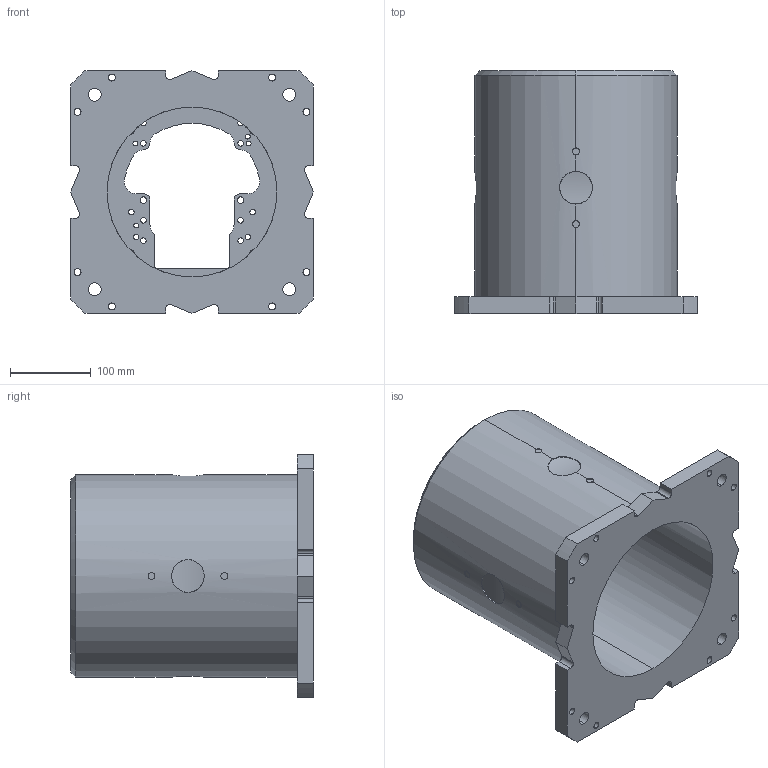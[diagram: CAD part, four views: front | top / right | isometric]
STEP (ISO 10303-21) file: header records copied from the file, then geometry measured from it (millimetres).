
FILE_DESCRIPTION (( 'STEP AP214' ), '1' );
FILE_NAME ('A-300.STEP', '2025-09-19T11:03:46', ( '' ), ( '' ), 'SwSTEP 2.0', 'SolidWorks 2022', '' );
FILE_SCHEMA (( 'AUTOMOTIVE_DESIGN' ));
Length unit declared in the file: millimetre
Products named in the file (1): A-300
Bounding box: 300 x 300 x 300 mm (x, y, z)
Volume: 5303087 mm3; surface area: 587669.9 mm2
Topology: 1 solids, 1 shells, 200 faces, 564 edges, 366 vertices
Faces by surface type: cylinder 147, plane 43, bspline 8, cone 2
Entity records: 10309 total; most frequent: CARTESIAN_POINT 4247, DIRECTION 1154, ORIENTED_EDGE 1128, EDGE_CURVE 564, AXIS2_PLACEMENT_3D 459, VERTEX_POINT 366, EDGE_LOOP 274, CIRCLE 266
